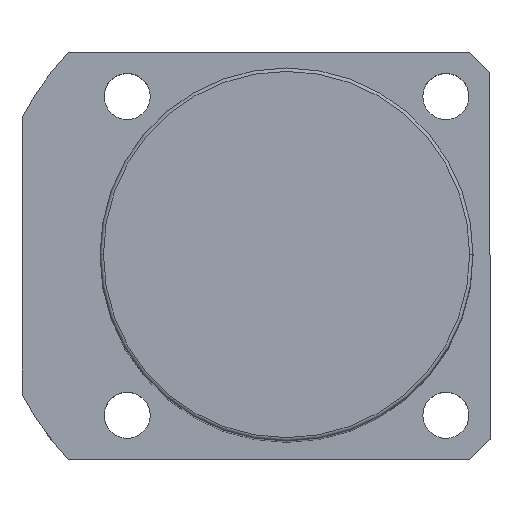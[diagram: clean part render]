
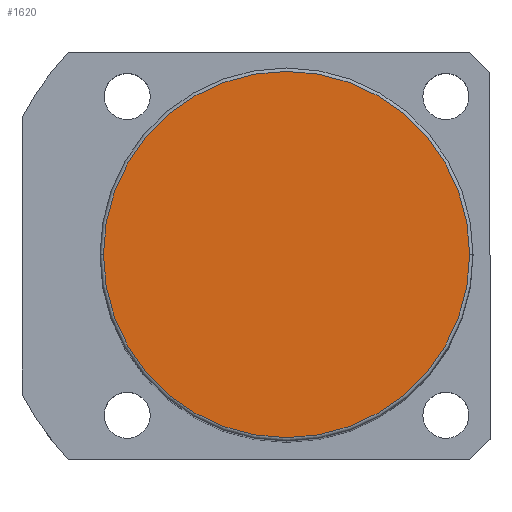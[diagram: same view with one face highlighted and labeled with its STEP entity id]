
A CAD part, top view. The second image highlights one B-rep face of the part: STEP entity #1620.
In plain terms, the highlighted planar face has unit normal (0, 0, 1).
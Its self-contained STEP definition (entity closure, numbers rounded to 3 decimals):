
#227 = AXIS2_PLACEMENT_3D ( 'NONE', #1417, #409, #919 ) ;
#261 = VERTEX_POINT ( 'NONE', #2009 ) ;
#327 = CIRCLE ( 'NONE', #1007, 27. ) ;
#339 = EDGE_LOOP ( 'NONE', ( #1232, #488 ) ) ;
#395 = CARTESIAN_POINT ( 'NONE',  ( 0., 0., 126. ) ) ;
#409 = DIRECTION ( 'NONE',  ( 0., 0., 1. ) ) ;
#434 = EDGE_CURVE ( 'NONE', #261, #501, #1763, .T. ) ;
#488 = ORIENTED_EDGE ( 'NONE', *, *, #434, .T. ) ;
#501 = VERTEX_POINT ( 'NONE', #1613 ) ;
#513 = DIRECTION ( 'NONE',  ( 0., 0., 1. ) ) ;
#695 = AXIS2_PLACEMENT_3D ( 'NONE', #395, #2049, #1717 ) ;
#919 = DIRECTION ( 'NONE',  ( 1., 0., 0. ) ) ;
#971 = EDGE_CURVE ( 'NONE', #501, #261, #327, .T. ) ;
#1005 = CARTESIAN_POINT ( 'NONE',  ( 0., 0., 126. ) ) ;
#1007 = AXIS2_PLACEMENT_3D ( 'NONE', #1005, #513, #1352 ) ;
#1232 = ORIENTED_EDGE ( 'NONE', *, *, #971, .T. ) ;
#1291 = FACE_OUTER_BOUND ( 'NONE', #339, .T. ) ;
#1352 = DIRECTION ( 'NONE',  ( 1., 0., 0. ) ) ;
#1417 = CARTESIAN_POINT ( 'NONE',  ( 0., 0., 126. ) ) ;
#1613 = CARTESIAN_POINT ( 'NONE',  ( 27., 0., 126. ) ) ;
#1620 = ADVANCED_FACE ( 'NONE', ( #1291 ), #1871, .T. ) ;
#1717 = DIRECTION ( 'NONE',  ( 1., 0., 0. ) ) ;
#1763 = CIRCLE ( 'NONE', #227, 27. ) ;
#1871 = PLANE ( 'NONE',  #695 ) ;
#2009 = CARTESIAN_POINT ( 'NONE',  ( -27., 0., 126. ) ) ;
#2049 = DIRECTION ( 'NONE',  ( 0., 0., 1. ) ) ;
